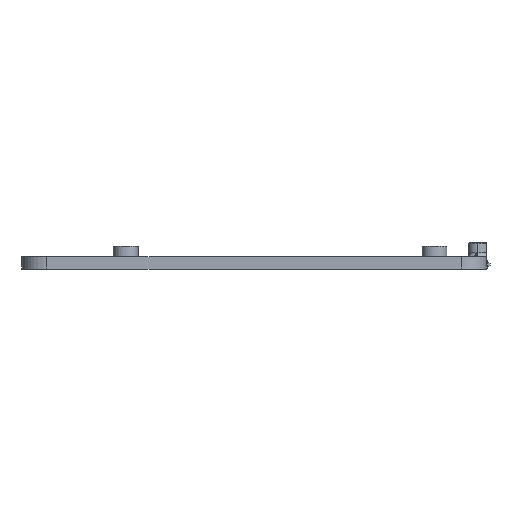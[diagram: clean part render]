
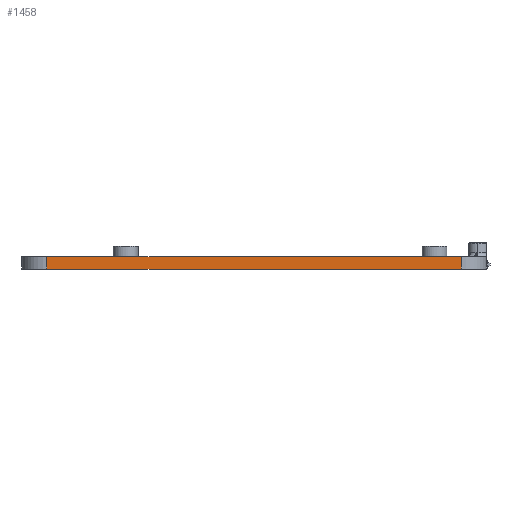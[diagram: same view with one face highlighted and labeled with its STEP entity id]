
A CAD part, left-side view. The second image highlights one B-rep face of the part: STEP entity #1458.
In plain terms, the highlighted planar face has unit normal (-1, 0, 0).
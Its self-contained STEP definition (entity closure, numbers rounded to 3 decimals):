
#180=CARTESIAN_POINT('',(-74.,-142.,1.5));
#181=VERTEX_POINT('',#180);
#189=CARTESIAN_POINT('',(-74.,-42.,1.5));
#190=VERTEX_POINT('',#189);
#191=CARTESIAN_POINT('',(-74.,-42.,1.5));
#192=DIRECTION('',(0.,-1.,0.));
#193=VECTOR('',#192,100.);
#194=LINE('',#191,#193);
#195=EDGE_CURVE('',#190,#181,#194,.T.);
#1166=CARTESIAN_POINT('',(-74.,-42.,4.5));
#1167=VERTEX_POINT('',#1166);
#1175=CARTESIAN_POINT('',(-74.,-142.,4.5));
#1176=VERTEX_POINT('',#1175);
#1177=CARTESIAN_POINT('',(-74.,-42.,4.5));
#1178=DIRECTION('',(0.,-1.,0.));
#1179=VECTOR('',#1178,100.);
#1180=LINE('',#1177,#1179);
#1181=EDGE_CURVE('',#1167,#1176,#1180,.T.);
#1437=CARTESIAN_POINT('',(-74.,-87.5,4.5));
#1438=DIRECTION('',(1.,0.,0.));
#1439=DIRECTION('',(-0.,1.,0.));
#1440=AXIS2_PLACEMENT_3D('',#1437,#1438,#1439);
#1441=PLANE('',#1440);
#1442=ORIENTED_EDGE('',*,*,#195,.T.);
#1443=CARTESIAN_POINT('',(-74.,-142.,1.5));
#1444=DIRECTION('',(0.,0.,1.));
#1445=VECTOR('',#1444,3.);
#1446=LINE('',#1443,#1445);
#1447=EDGE_CURVE('',#181,#1176,#1446,.T.);
#1448=ORIENTED_EDGE('',*,*,#1447,.T.);
#1449=ORIENTED_EDGE('',*,*,#1181,.F.);
#1450=CARTESIAN_POINT('',(-74.,-42.,4.5));
#1451=DIRECTION('',(-0.,-0.,-1.));
#1452=VECTOR('',#1451,3.);
#1453=LINE('',#1450,#1452);
#1454=EDGE_CURVE('',#1167,#190,#1453,.T.);
#1455=ORIENTED_EDGE('',*,*,#1454,.T.);
#1456=EDGE_LOOP('',(#1442,#1448,#1449,#1455));
#1457=FACE_BOUND('',#1456,.T.);
#1458=ADVANCED_FACE('',(#1457),#1441,.F.);
